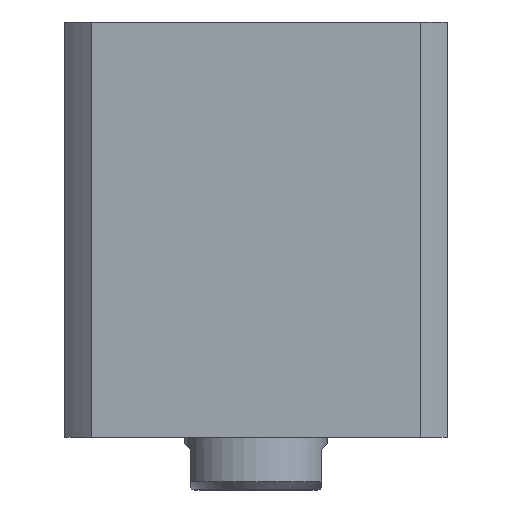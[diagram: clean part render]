
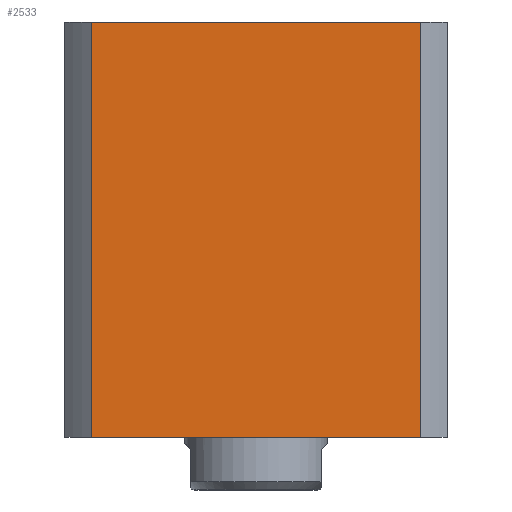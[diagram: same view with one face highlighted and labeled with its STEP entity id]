
A CAD part, front view. The second image highlights one B-rep face of the part: STEP entity #2533.
In plain terms, the highlighted planar face has unit normal (0, -1, 0) as drawn and (0, 1, 0) by its records, which use the part's own axes.
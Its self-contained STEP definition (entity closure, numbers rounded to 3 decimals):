
#712 = LINE ( 'NONE', #2996, #7150 ) ;
#930 = EDGE_CURVE ( 'NONE', #12956, #4871, #712, .T. ) ;
#1108 = ORIENTED_EDGE ( 'NONE', *, *, #15279, .T. ) ;
#1165 = DIRECTION ( 'NONE',  ( -1., 0., 0. ) ) ;
#1611 = VERTEX_POINT ( 'NONE', #17544 ) ;
#2533 = ADVANCED_FACE ( 'NONE', ( #9125 ), #7921, .F. ) ;
#2623 = LINE ( 'NONE', #14234, #13156 ) ;
#2634 = EDGE_CURVE ( 'NONE', #12649, #1611, #12300, .T. ) ;
#2996 = CARTESIAN_POINT ( 'NONE',  ( 40.435, 47., -5898. ) ) ;
#3384 = CARTESIAN_POINT ( 'NONE',  ( -40.435, 47., 102. ) ) ;
#3431 = DIRECTION ( 'NONE',  ( -1., 0., 0. ) ) ;
#3831 = DIRECTION ( 'NONE',  ( 0., 0., -1. ) ) ;
#3883 = CARTESIAN_POINT ( 'NONE',  ( -40.435, 47., -5898. ) ) ;
#4086 = EDGE_LOOP ( 'NONE', ( #7559, #1108, #8409, #8859 ) ) ;
#4195 = DIRECTION ( 'NONE',  ( 0., 0., 1. ) ) ;
#4871 = VERTEX_POINT ( 'NONE', #14364 ) ;
#7019 = AXIS2_PLACEMENT_3D ( 'NONE', #9308, #12039, #3831 ) ;
#7150 = VECTOR ( 'NONE', #4195, 1000. ) ;
#7559 = ORIENTED_EDGE ( 'NONE', *, *, #930, .F. ) ;
#7921 = PLANE ( 'NONE',  #7019 ) ;
#8409 = ORIENTED_EDGE ( 'NONE', *, *, #2634, .F. ) ;
#8859 = ORIENTED_EDGE ( 'NONE', *, *, #11390, .F. ) ;
#8931 = VECTOR ( 'NONE', #3431, 1000. ) ;
#9125 = FACE_OUTER_BOUND ( 'NONE', #4086, .T. ) ;
#9308 = CARTESIAN_POINT ( 'NONE',  ( -47., 47., 102. ) ) ;
#11390 = EDGE_CURVE ( 'NONE', #4871, #12649, #16205, .T. ) ;
#11647 = CARTESIAN_POINT ( 'NONE',  ( -47., 47., 102. ) ) ;
#12039 = DIRECTION ( 'NONE',  ( 0., -1., 0. ) ) ;
#12300 = LINE ( 'NONE', #3883, #15540 ) ;
#12649 = VERTEX_POINT ( 'NONE', #3384 ) ;
#12956 = VERTEX_POINT ( 'NONE', #17526 ) ;
#13156 = VECTOR ( 'NONE', #1165, 1000. ) ;
#13429 = DIRECTION ( 'NONE',  ( 0., 0., -1. ) ) ;
#14234 = CARTESIAN_POINT ( 'NONE',  ( -47., 47., 0. ) ) ;
#14364 = CARTESIAN_POINT ( 'NONE',  ( 40.435, 47., 102. ) ) ;
#15279 = EDGE_CURVE ( 'NONE', #12956, #1611, #2623, .T. ) ;
#15540 = VECTOR ( 'NONE', #13429, 1000. ) ;
#16205 = LINE ( 'NONE', #11647, #8931 ) ;
#17526 = CARTESIAN_POINT ( 'NONE',  ( 40.435, 47., 0. ) ) ;
#17544 = CARTESIAN_POINT ( 'NONE',  ( -40.435, 47., 0. ) ) ;
